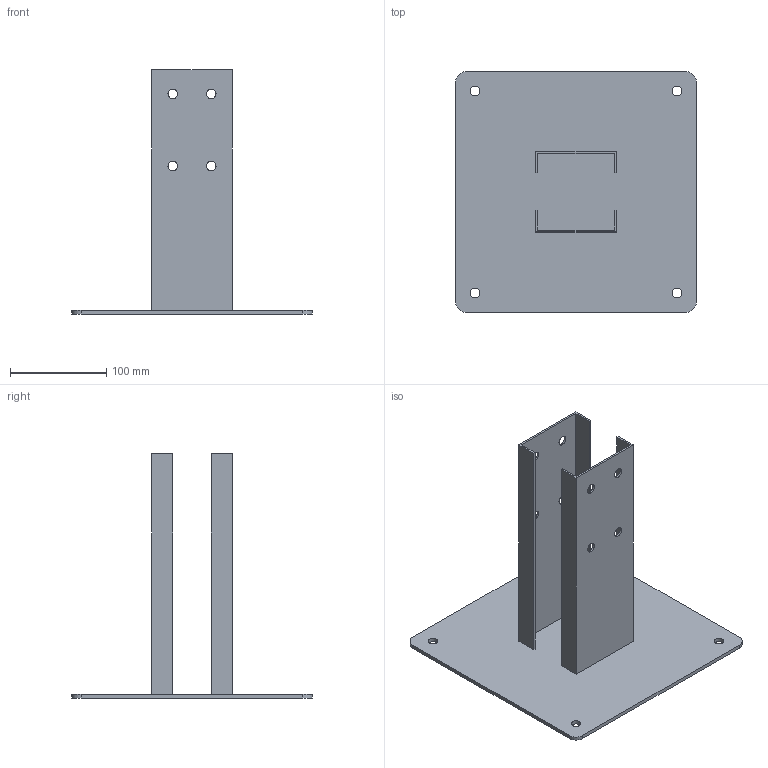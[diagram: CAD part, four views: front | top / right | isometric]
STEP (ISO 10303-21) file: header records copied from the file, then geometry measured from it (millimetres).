
FILE_DESCRIPTION((''),'2;1');
FILE_NAME('X:\Ritarkiv\STEP-Carryline Standarddelar\100-1130.stp','2009-11-09T07:58:19',('marcus'),(''),'Autodesk Inventor 2010','Autodesk Inventor 2010','');
FILE_SCHEMA(('AUTOMOTIVE_DESIGN { 1 0 10303 214 1 1 1 1 }'));
Length unit declared in the file: millimetre
Products named in the file (1): 100-1130
Bounding box: 250 x 250 x 254 mm (x, y, z)
Volume: 371143.9 mm3; surface area: 253879.8 mm2
Topology: 1 solids, 1 shells, 40 faces, 116 edges, 80 vertices
Faces by surface type: plane 24, bspline 12, cylinder 4
Entity records: 1434 total; most frequent: CARTESIAN_POINT 413, ORIENTED_EDGE 192, DIRECTION 186, EDGE_CURVE 96, EDGE_LOOP 78, VERTEX_POINT 72, VECTOR 64, LINE 64
